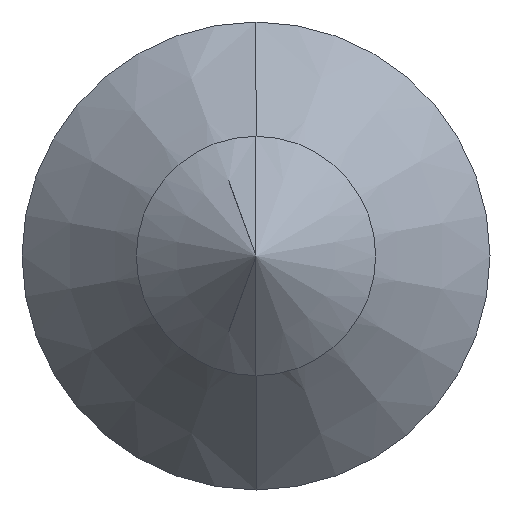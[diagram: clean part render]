
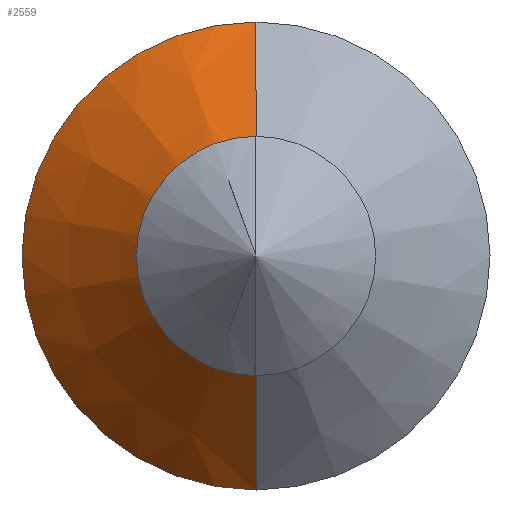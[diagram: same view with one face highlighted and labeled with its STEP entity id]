
A CAD part, left-side view. The second image highlights one B-rep face of the part: STEP entity #2559.
In plain terms, the highlighted conical face has half-angle 43.877 degrees and reference radius 2.15 mm.
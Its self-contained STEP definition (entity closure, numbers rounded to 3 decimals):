
#97 = ORIENTED_EDGE ( 'NONE', *, *, #953, .T. ) ;
#277 = VERTEX_POINT ( 'NONE', #1325 ) ;
#304 = EDGE_CURVE ( 'NONE', #1521, #2113, #1561, .T. ) ;
#466 = CIRCLE ( 'NONE', #753, 0.9 ) ;
#553 = DIRECTION ( 'NONE',  ( 0., 0., -1. ) ) ;
#727 = DIRECTION ( 'NONE',  ( 1., 0., 0. ) ) ;
#753 = AXIS2_PLACEMENT_3D ( 'NONE', #1421, #955, #1909 ) ;
#817 = ORIENTED_EDGE ( 'NONE', *, *, #304, .F. ) ;
#819 = VERTEX_POINT ( 'NONE', #2375 ) ;
#859 = CONICAL_SURFACE ( 'NONE', #1575, 2.15, 0.766 ) ;
#953 = EDGE_CURVE ( 'NONE', #819, #2113, #1198, .T. ) ;
#955 = DIRECTION ( 'NONE',  ( 1., 0., 0. ) ) ;
#979 = ORIENTED_EDGE ( 'NONE', *, *, #2432, .F. ) ;
#1074 = CARTESIAN_POINT ( 'NONE',  ( 6.42, 0., 2.15 ) ) ;
#1131 = VECTOR ( 'NONE', #1410, 1000. ) ;
#1198 = LINE ( 'NONE', #1074, #1131 ) ;
#1242 = EDGE_CURVE ( 'NONE', #277, #819, #466, .T. ) ;
#1258 = LINE ( 'NONE', #2769, #2325 ) ;
#1325 = CARTESIAN_POINT ( 'NONE',  ( 5.12, 0., -0.9 ) ) ;
#1410 = DIRECTION ( 'NONE',  ( 0.721, 0., 0.693 ) ) ;
#1421 = CARTESIAN_POINT ( 'NONE',  ( 5.12, 0., 0. ) ) ;
#1521 = VERTEX_POINT ( 'NONE', #2329 ) ;
#1561 = CIRCLE ( 'NONE', #2107, 2.15 ) ;
#1562 = CARTESIAN_POINT ( 'NONE',  ( 6.42, 0., 0. ) ) ;
#1575 = AXIS2_PLACEMENT_3D ( 'NONE', #2187, #1794, #553 ) ;
#1600 = EDGE_LOOP ( 'NONE', ( #2688, #97, #817, #979 ) ) ;
#1794 = DIRECTION ( 'NONE',  ( 1., 0., 0. ) ) ;
#1909 = DIRECTION ( 'NONE',  ( 0., 0., -1. ) ) ;
#1943 = CARTESIAN_POINT ( 'NONE',  ( 6.42, 0., 2.15 ) ) ;
#2107 = AXIS2_PLACEMENT_3D ( 'NONE', #1562, #727, #2620 ) ;
#2113 = VERTEX_POINT ( 'NONE', #1943 ) ;
#2120 = FACE_OUTER_BOUND ( 'NONE', #1600, .T. ) ;
#2187 = CARTESIAN_POINT ( 'NONE',  ( 6.42, 0., 0. ) ) ;
#2325 = VECTOR ( 'NONE', #2513, 1000. ) ;
#2329 = CARTESIAN_POINT ( 'NONE',  ( 6.42, 0., -2.15 ) ) ;
#2375 = CARTESIAN_POINT ( 'NONE',  ( 5.12, 0., 0.9 ) ) ;
#2432 = EDGE_CURVE ( 'NONE', #277, #1521, #1258, .T. ) ;
#2513 = DIRECTION ( 'NONE',  ( 0.721, 0., -0.693 ) ) ;
#2559 = ADVANCED_FACE ( 'NONE', ( #2120 ), #859, .T. ) ;
#2620 = DIRECTION ( 'NONE',  ( 0., 0., -1. ) ) ;
#2688 = ORIENTED_EDGE ( 'NONE', *, *, #1242, .T. ) ;
#2769 = CARTESIAN_POINT ( 'NONE',  ( 6.42, 0., -2.15 ) ) ;
